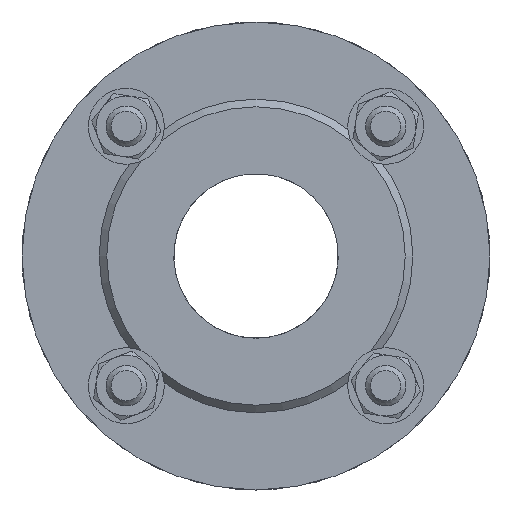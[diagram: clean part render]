
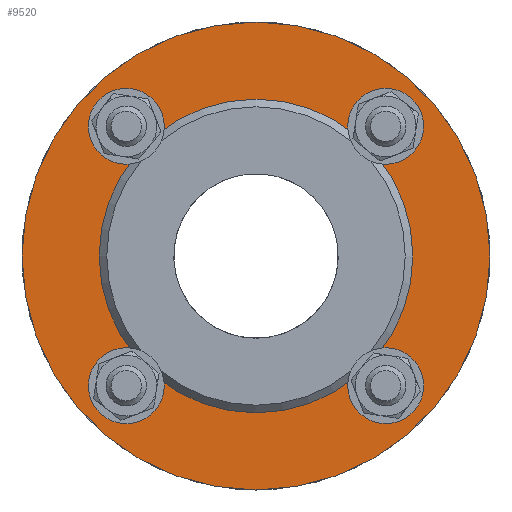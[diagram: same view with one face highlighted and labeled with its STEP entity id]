
A CAD part, left-side view. The second image highlights one B-rep face of the part: STEP entity #9520.
In plain terms, the highlighted planar face has unit normal (-1, 0, 0).
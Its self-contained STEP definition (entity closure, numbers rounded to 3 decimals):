
#6 = DIRECTION ( 'NONE',  ( -1., 0., 0. ) ) ;
#335 = FACE_BOUND ( 'NONE', #9673, .T. ) ;
#340 = ORIENTED_EDGE ( 'NONE', *, *, #1626, .F. ) ;
#828 = VERTEX_POINT ( 'NONE', #11068 ) ;
#1053 = DIRECTION ( 'NONE',  ( -1., 0., 0. ) ) ;
#1216 = DIRECTION ( 'NONE',  ( 0., 0., -1. ) ) ;
#1613 = DIRECTION ( 'NONE',  ( 0., 0., -1. ) ) ;
#1626 = EDGE_CURVE ( 'NONE', #6469, #6469, #8718, .T. ) ;
#1656 = EDGE_CURVE ( 'NONE', #6397, #6397, #9194, .T. ) ;
#1821 = DIRECTION ( 'NONE',  ( 0., -1., 0. ) ) ;
#2135 = CIRCLE ( 'NONE', #7001, 8. ) ;
#2159 = DIRECTION ( 'NONE',  ( 0., 0., -1. ) ) ;
#2374 = EDGE_CURVE ( 'NONE', #828, #828, #2884, .T. ) ;
#2725 = CIRCLE ( 'NONE', #14193, 8. ) ;
#2884 = CIRCLE ( 'NONE', #11435, 8. ) ;
#3031 = DIRECTION ( 'NONE',  ( -1., 0., 0. ) ) ;
#3289 = VERTEX_POINT ( 'NONE', #13547 ) ;
#3323 = DIRECTION ( 'NONE',  ( 0., 0., -1. ) ) ;
#3769 = EDGE_LOOP ( 'NONE', ( #5321 ) ) ;
#3906 = VERTEX_POINT ( 'NONE', #9730 ) ;
#3992 = EDGE_LOOP ( 'NONE', ( #5697 ) ) ;
#4698 = CARTESIAN_POINT ( 'NONE',  ( -86.67, 0., 0. ) ) ;
#4887 = FACE_BOUND ( 'NONE', #7869, .T. ) ;
#5202 = CIRCLE ( 'NONE', #14735, 92.5 ) ;
#5223 = EDGE_LOOP ( 'NONE', ( #340 ) ) ;
#5321 = ORIENTED_EDGE ( 'NONE', *, *, #6516, .F. ) ;
#5393 = CARTESIAN_POINT ( 'NONE',  ( -86.67, -51.265, 43.265 ) ) ;
#5617 = VERTEX_POINT ( 'NONE', #11671 ) ;
#5697 = ORIENTED_EDGE ( 'NONE', *, *, #9929, .T. ) ;
#6189 = FACE_BOUND ( 'NONE', #5223, .T. ) ;
#6397 = VERTEX_POINT ( 'NONE', #12140 ) ;
#6469 = VERTEX_POINT ( 'NONE', #5393 ) ;
#6516 = EDGE_CURVE ( 'NONE', #5617, #5617, #2725, .T. ) ;
#6997 = CARTESIAN_POINT ( 'NONE',  ( -86.67, 51.265, -51.265 ) ) ;
#7001 = AXIS2_PLACEMENT_3D ( 'NONE', #12084, #14525, #1613 ) ;
#7836 = DIRECTION ( 'NONE',  ( 0., -1., 0. ) ) ;
#7869 = EDGE_LOOP ( 'NONE', ( #9559 ) ) ;
#7907 = ORIENTED_EDGE ( 'NONE', *, *, #1656, .F. ) ;
#8555 = CARTESIAN_POINT ( 'NONE',  ( -86.67, 0., 92.5 ) ) ;
#8633 = DIRECTION ( 'NONE',  ( 1., 0., 0. ) ) ;
#8718 = CIRCLE ( 'NONE', #11909, 8. ) ;
#9194 = CIRCLE ( 'NONE', #13124, 62. ) ;
#9520 = ADVANCED_FACE ( 'NONE', ( #4887, #9704, #6189, #335, #13225, #9628 ), #10856, .F. ) ;
#9559 = ORIENTED_EDGE ( 'NONE', *, *, #2374, .F. ) ;
#9628 = FACE_OUTER_BOUND ( 'NONE', #3992, .T. ) ;
#9673 = EDGE_LOOP ( 'NONE', ( #14453 ) ) ;
#9704 = FACE_BOUND ( 'NONE', #3769, .T. ) ;
#9730 = CARTESIAN_POINT ( 'NONE',  ( -86.67, -92.5, 0. ) ) ;
#9912 = CARTESIAN_POINT ( 'NONE',  ( -86.67, 0., 0. ) ) ;
#9929 = EDGE_CURVE ( 'NONE', #3906, #3906, #5202, .T. ) ;
#10169 = CARTESIAN_POINT ( 'NONE',  ( -86.67, 51.265, 51.265 ) ) ;
#10856 = PLANE ( 'NONE',  #12080 ) ;
#11068 = CARTESIAN_POINT ( 'NONE',  ( -86.67, 51.265, 43.265 ) ) ;
#11435 = AXIS2_PLACEMENT_3D ( 'NONE', #10169, #13932, #2159 ) ;
#11596 = DIRECTION ( 'NONE',  ( -1., 0., 0. ) ) ;
#11671 = CARTESIAN_POINT ( 'NONE',  ( -86.67, 51.265, -59.265 ) ) ;
#11909 = AXIS2_PLACEMENT_3D ( 'NONE', #12817, #1053, #3323 ) ;
#12080 = AXIS2_PLACEMENT_3D ( 'NONE', #8555, #8633, #14450 ) ;
#12084 = CARTESIAN_POINT ( 'NONE',  ( -86.67, -51.265, -51.265 ) ) ;
#12140 = CARTESIAN_POINT ( 'NONE',  ( -86.67, -62., 0. ) ) ;
#12817 = CARTESIAN_POINT ( 'NONE',  ( -86.67, -51.265, 51.265 ) ) ;
#13124 = AXIS2_PLACEMENT_3D ( 'NONE', #4698, #11596, #7836 ) ;
#13225 = FACE_BOUND ( 'NONE', #14278, .T. ) ;
#13547 = CARTESIAN_POINT ( 'NONE',  ( -86.67, -51.265, -59.265 ) ) ;
#13932 = DIRECTION ( 'NONE',  ( -1., 0., 0. ) ) ;
#13936 = EDGE_CURVE ( 'NONE', #3289, #3289, #2135, .T. ) ;
#14193 = AXIS2_PLACEMENT_3D ( 'NONE', #6997, #6, #1216 ) ;
#14278 = EDGE_LOOP ( 'NONE', ( #7907 ) ) ;
#14450 = DIRECTION ( 'NONE',  ( 0., 1., 0. ) ) ;
#14453 = ORIENTED_EDGE ( 'NONE', *, *, #13936, .F. ) ;
#14525 = DIRECTION ( 'NONE',  ( -1., 0., 0. ) ) ;
#14735 = AXIS2_PLACEMENT_3D ( 'NONE', #9912, #3031, #1821 ) ;
